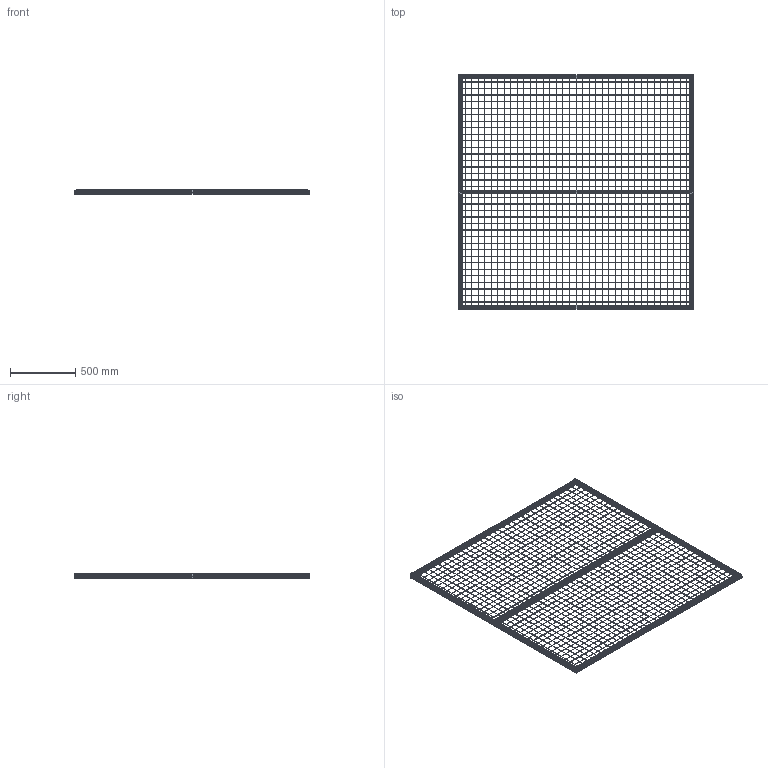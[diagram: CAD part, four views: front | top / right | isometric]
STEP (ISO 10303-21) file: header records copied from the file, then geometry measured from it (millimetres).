
FILE_DESCRIPTION (( 'STEP AP214' ), '1' );
FILE_NAME ('RSI12002 Ñåêöèÿ îãðàæäåíèÿ 1800õ1800 (Àíîä) ñ çàæèìíûì ïðîôèëåì.STEP', '2021-02-12T05:15:13', ( 'Home' ), ( '' ), 'SwSTEP 2.0', 'SolidWorks 2020', '' );
FILE_SCHEMA (( 'AUTOMOTIVE_DESIGN' ));
Length unit declared in the file: millimetre
Products named in the file (14): 砎麔_L=875 洵; Âèíò ïîëóñôåðà ISO 7380_Œ8å16; ZP-8-2S_L=1740 洵; OB-3030 Ïðîôèëü 30õ30 ìì, ïàç 8 ìì (Àíîäèðîâàííûé)_L=1800 ¬¬; OB-3030 Ïðîôèëü 30õ30 ìì, ïàç 8 ìì (Àíîäèðîâàííûé)_L=1740 ¬¬; 砎麔_L=1760 洵; ZP-8-1S_L=1740 洵; Âèíò ñ âíóòðåííèì øåñòèãðàííèêîì ISO 4762_Œ4å20; Ñåòêà; ZP-8-1S_L=1800 洵; RSI12002 Ñåêöèÿ îãðàæäåíèÿ 1800õ1800 (Àíîä) ñ çàæèìíûì ïðîôèëåì
Assembly tree (110 placements, depth 3):
  RSI12002 Ñåêöèÿ îãðàæäåíèÿ 1800õ1800 (Àíîä) ñ çàæèìíûì ïðîôèëåì
    OB-3030 Ïðîôèëü 30õ30 ìì, ïàç 8 ìì (Àíîäèðîâàííûé)_L=1800 ¬¬
    OB-3030 Ïðîôèëü 30õ30 ìì, ïàç 8 ìì (Àíîäèðîâàííûé)_L=1800 ¬¬
    OB-3030 Ïðîôèëü 30õ30 ìì, ïàç 8 ìì (Àíîäèðîâàííûé)_L=1740 ¬¬
    OB-3030 Ïðîôèëü 30õ30 ìì, ïàç 8 ìì (Àíîäèðîâàííûé)_L=1740 ¬¬
    OB-3030 Ïðîôèëü 30õ30 ìì, ïàç 8 ìì (Àíîäèðîâàííûé)_L=1740 ¬¬
    Ñåòêà  x2
      砎麔_L=875 洵
      砎麔_L=1760 洵
    Âèíò ïîëóñôåðà ISO 7380_Œ8å16  x6
    ZP-8-1S_L=1740 洵  x2
    ZP-8-1S_L=1800 洵  x2
    ZP-8-2S_L=1740 洵
    Âèíò ñ âíóòðåííèì øåñòèãðàííèêîì ISO 4762_Œ4å20  x40
Bounding box: 1800 x 1800 x 35 mm (x, y, z)
Volume: 4067468.9 mm3; surface area: 5056341.9 mm2
Topology: 160 solids, 160 shells, 3581 faces, 9441 edges, 5996 vertices
Faces by surface type: plane 2009, cylinder 1100, cone 288, torus 172, sphere 12
Entity records: 69239 total; most frequent: CARTESIAN_POINT 18332, ORIENTED_EDGE 11470, DIRECTION 8759, EDGE_CURVE 5735, VERTEX_POINT 3774, VECTOR 3365, LINE 3365, AXIS2_PLACEMENT_3D 2697
